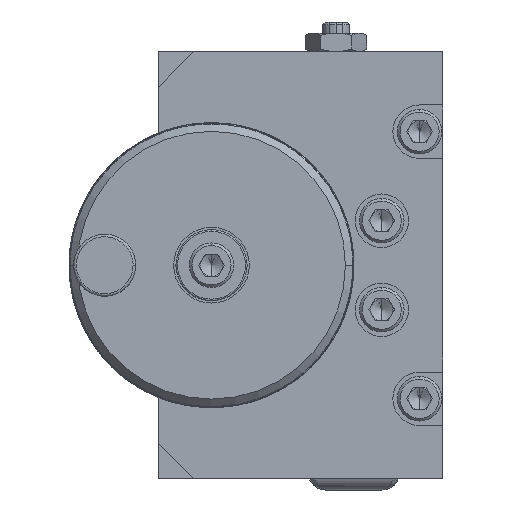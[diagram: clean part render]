
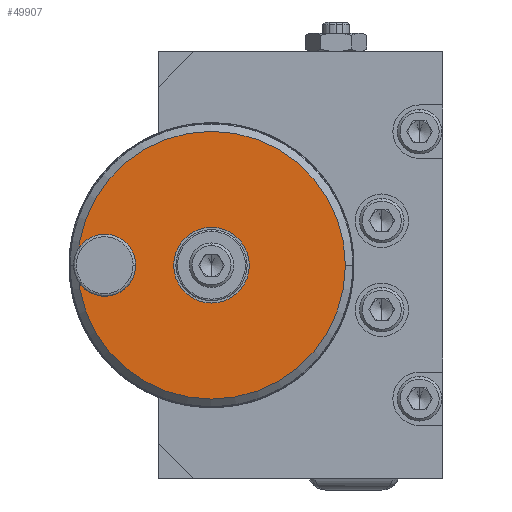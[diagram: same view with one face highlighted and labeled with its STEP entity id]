
A CAD part, left-side view. The second image highlights one B-rep face of the part: STEP entity #49907.
In plain terms, the highlighted planar face has unit normal (-1, 0, 0) as drawn and (0, 0, 1) by its records, which use the part's own axes.
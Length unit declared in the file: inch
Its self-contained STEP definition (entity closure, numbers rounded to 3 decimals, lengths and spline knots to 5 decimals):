
#16633 = AXIS2_PLACEMENT_3D ( 'NONE', #20867, #20860, #20875 ) ;
#19845 = CIRCLE ( 'NONE', #19849, 0.26563 ) ;
#19849 = AXIS2_PLACEMENT_3D ( 'NONE', #20140, #20141, #20142 ) ;
#19855 = CIRCLE ( 'NONE', #19858, 0.07475 ) ;
#19858 = AXIS2_PLACEMENT_3D ( 'NONE', #20190, #20191, #20192 ) ;
#19968 = CIRCLE ( 'NONE', #20073, 0.94 ) ;
#20073 = AXIS2_PLACEMENT_3D ( 'NONE', #34288, #34289, #34290 ) ;
#20140 = CARTESIAN_POINT ( 'NONE',  ( 0., 0., 0.5625 ) ) ;
#20141 = DIRECTION ( 'NONE',  ( 0., 0., 1. ) ) ;
#20142 = DIRECTION ( 'NONE',  ( 1., 0., 0. ) ) ;
#20190 = CARTESIAN_POINT ( 'NONE',  ( 0., 0.75, 0.5625 ) ) ;
#20191 = DIRECTION ( 'NONE',  ( 0., 0., 1. ) ) ;
#20192 = DIRECTION ( 'NONE',  ( 1., 0., 0. ) ) ;
#20858 = FACE_BOUND ( 'NONE', #60816, .T. ) ;
#20860 = DIRECTION ( 'NONE',  ( 0., 0., -1. ) ) ;
#20866 = FACE_BOUND ( 'NONE', #60814, .T. ) ;
#20867 = CARTESIAN_POINT ( 'NONE',  ( 0., 1., 0.5625 ) ) ;
#20870 = FACE_OUTER_BOUND ( 'NONE', #60813, .T. ) ;
#20873 = PLANE ( 'NONE',  #16633 ) ;
#20875 = DIRECTION ( 'NONE',  ( 0., 1., 0. ) ) ;
#22811 = CARTESIAN_POINT ( 'NONE',  ( -0.26563, 0., 0.5625 ) ) ;
#22812 = CARTESIAN_POINT ( 'NONE',  ( 0.26563, 0., 0.5625 ) ) ;
#22817 = CARTESIAN_POINT ( 'NONE',  ( -0.07475, 0.75, 0.5625 ) ) ;
#22818 = CARTESIAN_POINT ( 'NONE',  ( 0.07475, 0.75, 0.5625 ) ) ;
#30092 = CARTESIAN_POINT ( 'NONE',  ( 0., 0.94, 0.5625 ) ) ;
#30205 = CARTESIAN_POINT ( 'NONE',  ( 0., -0.94, 0.5625 ) ) ;
#34288 = CARTESIAN_POINT ( 'NONE',  ( 0., 0., 0.5625 ) ) ;
#34289 = DIRECTION ( 'NONE',  ( 0., 0., 1. ) ) ;
#34290 = DIRECTION ( 'NONE',  ( 0., 1., 0. ) ) ;
#36055 = CIRCLE ( 'NONE', #36060, 0.26563 ) ;
#36059 = CIRCLE ( 'NONE', #36064, 0.07475 ) ;
#36060 = AXIS2_PLACEMENT_3D ( 'NONE', #53577, #53579, #53581 ) ;
#36062 = CIRCLE ( 'NONE', #36068, 0.94 ) ;
#36064 = AXIS2_PLACEMENT_3D ( 'NONE', #53585, #53587, #53589 ) ;
#36068 = AXIS2_PLACEMENT_3D ( 'NONE', #53594, #53596, #53598 ) ;
#37603 = EDGE_CURVE ( 'NONE', #50371, #50372, #19845, .T. ) ;
#37617 = EDGE_CURVE ( 'NONE', #50377, #50378, #19855, .T. ) ;
#42997 = EDGE_CURVE ( 'NONE', #60296, #60180, #19968, .T. ) ;
#43668 = EDGE_CURVE ( 'NONE', #50372, #50371, #36055, .T. ) ;
#43669 = EDGE_CURVE ( 'NONE', #50378, #50377, #36059, .T. ) ;
#43670 = EDGE_CURVE ( 'NONE', #60180, #60296, #36062, .T. ) ;
#45665 = ORIENTED_EDGE ( 'NONE', *, *, #43668, .F. ) ;
#45667 = ORIENTED_EDGE ( 'NONE', *, *, #37603, .F. ) ;
#45669 = ORIENTED_EDGE ( 'NONE', *, *, #43669, .F. ) ;
#45670 = ORIENTED_EDGE ( 'NONE', *, *, #37617, .F. ) ;
#45672 = ORIENTED_EDGE ( 'NONE', *, *, #43670, .T. ) ;
#45674 = ORIENTED_EDGE ( 'NONE', *, *, #42997, .T. ) ;
#49907 = ADVANCED_FACE ( 'NONE', ( #20866, #20858, #20870 ), #20873, .F. ) ;
#50371 = VERTEX_POINT ( 'NONE', #22811 ) ;
#50372 = VERTEX_POINT ( 'NONE', #22812 ) ;
#50377 = VERTEX_POINT ( 'NONE', #22817 ) ;
#50378 = VERTEX_POINT ( 'NONE', #22818 ) ;
#53577 = CARTESIAN_POINT ( 'NONE',  ( 0., 0., 0.5625 ) ) ;
#53579 = DIRECTION ( 'NONE',  ( 0., 0., 1. ) ) ;
#53581 = DIRECTION ( 'NONE',  ( 1., 0., 0. ) ) ;
#53585 = CARTESIAN_POINT ( 'NONE',  ( 0., 0.75, 0.5625 ) ) ;
#53587 = DIRECTION ( 'NONE',  ( 0., 0., 1. ) ) ;
#53589 = DIRECTION ( 'NONE',  ( 1., 0., 0. ) ) ;
#53594 = CARTESIAN_POINT ( 'NONE',  ( 0., 0., 0.5625 ) ) ;
#53596 = DIRECTION ( 'NONE',  ( 0., 0., 1. ) ) ;
#53598 = DIRECTION ( 'NONE',  ( 0., 1., 0. ) ) ;
#60180 = VERTEX_POINT ( 'NONE', #30092 ) ;
#60296 = VERTEX_POINT ( 'NONE', #30205 ) ;
#60813 = EDGE_LOOP ( 'NONE', ( #45672, #45674 ) ) ;
#60814 = EDGE_LOOP ( 'NONE', ( #45665, #45667 ) ) ;
#60816 = EDGE_LOOP ( 'NONE', ( #45669, #45670 ) ) ;
